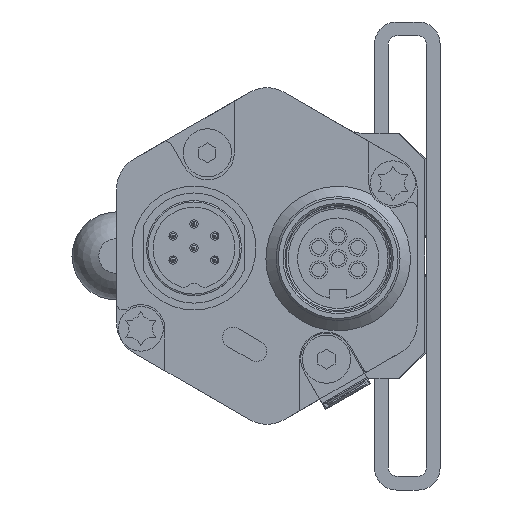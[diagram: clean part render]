
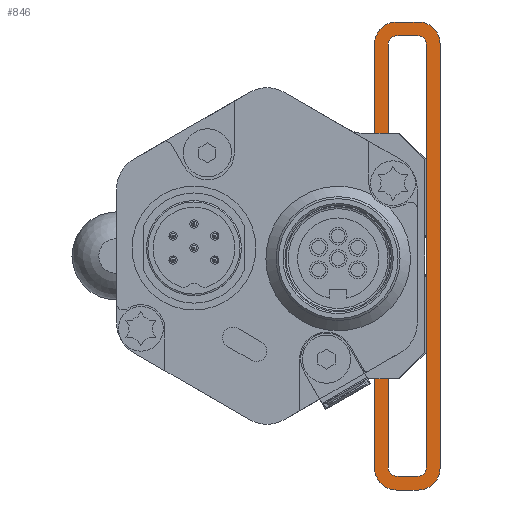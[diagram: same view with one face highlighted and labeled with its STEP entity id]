
A CAD part, left-side view. The second image highlights one B-rep face of the part: STEP entity #846.
In plain terms, the highlighted planar face has unit normal (-1, 0, 0).
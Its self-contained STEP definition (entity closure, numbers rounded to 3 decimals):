
#846 = ADVANCED_FACE( '', ( #2002 ), #2003, .F. );
#2002 = FACE_OUTER_BOUND( '', #3244, .T. );
#2003 = PLANE( '', #3245 );
#3244 = EDGE_LOOP( '', ( #7154, #7155, #7156, #7157, #7158, #7159, #7160, #7161, #7162, #7163, #7164, #7165, #7166, #7167, #7168, #7169, #7170, #7171, #7172, #7173 ) );
#3245 = AXIS2_PLACEMENT_3D( '', #7174, #7175, #7176 );
#7154 = ORIENTED_EDGE( '', *, *, #8850, .F. );
#7155 = ORIENTED_EDGE( '', *, *, #8901, .F. );
#7156 = ORIENTED_EDGE( '', *, *, #8902, .F. );
#7157 = ORIENTED_EDGE( '', *, *, #8844, .F. );
#7158 = ORIENTED_EDGE( '', *, *, #8840, .F. );
#7159 = ORIENTED_EDGE( '', *, *, #8847, .T. );
#7160 = ORIENTED_EDGE( '', *, *, #8899, .F. );
#7161 = ORIENTED_EDGE( '', *, *, #8896, .T. );
#7162 = ORIENTED_EDGE( '', *, *, #8893, .F. );
#7163 = ORIENTED_EDGE( '', *, *, #8888, .T. );
#7164 = ORIENTED_EDGE( '', *, *, #8885, .F. );
#7165 = ORIENTED_EDGE( '', *, *, #8882, .T. );
#7166 = ORIENTED_EDGE( '', *, *, #8879, .F. );
#7167 = ORIENTED_EDGE( '', *, *, #8875, .F. );
#7168 = ORIENTED_EDGE( '', *, *, #8872, .F. );
#7169 = ORIENTED_EDGE( '', *, *, #8868, .F. );
#7170 = ORIENTED_EDGE( '', *, *, #8865, .F. );
#7171 = ORIENTED_EDGE( '', *, *, #8862, .F. );
#7172 = ORIENTED_EDGE( '', *, *, #8859, .F. );
#7173 = ORIENTED_EDGE( '', *, *, #8854, .F. );
#7174 = CARTESIAN_POINT( '', ( -7.25, 3.175, 30.825 ) );
#7175 = DIRECTION( '', ( 1., 0., 0. ) );
#7176 = DIRECTION( '', ( 0., 0., -1. ) );
#8840 = EDGE_CURVE( '', #10949, #10950, #10951, .T. );
#8844 = EDGE_CURVE( '', #10950, #10957, #10958, .T. );
#8847 = EDGE_CURVE( '', #10949, #10962, #10963, .T. );
#8850 = EDGE_CURVE( '', #10967, #10968, #10969, .T. );
#8854 = EDGE_CURVE( '', #10968, #10975, #10976, .T. );
#8859 = EDGE_CURVE( '', #10975, #10984, #10985, .T. );
#8862 = EDGE_CURVE( '', #10984, #10989, #10990, .T. );
#8865 = EDGE_CURVE( '', #10989, #10994, #10995, .T. );
#8868 = EDGE_CURVE( '', #10994, #10999, #11000, .T. );
#8872 = EDGE_CURVE( '', #10999, #11006, #11007, .T. );
#8875 = EDGE_CURVE( '', #11006, #11011, #11012, .T. );
#8879 = EDGE_CURVE( '', #11011, #11018, #11019, .T. );
#8882 = EDGE_CURVE( '', #11023, #11018, #11024, .T. );
#8885 = EDGE_CURVE( '', #11023, #11028, #11029, .T. );
#8888 = EDGE_CURVE( '', #11033, #11028, #11034, .T. );
#8893 = EDGE_CURVE( '', #11033, #11042, #11043, .T. );
#8896 = EDGE_CURVE( '', #11047, #11042, #11048, .T. );
#8899 = EDGE_CURVE( '', #11047, #10962, #11052, .T. );
#8901 = EDGE_CURVE( '', #11054, #10967, #11055, .T. );
#8902 = EDGE_CURVE( '', #10957, #11054, #11056, .T. );
#10949 = VERTEX_POINT( '', #14223 );
#10950 = VERTEX_POINT( '', #14224 );
#10951 = LINE( '', #14225, #14226 );
#10957 = VERTEX_POINT( '', #14235 );
#10958 = LINE( '', #14236, #14237 );
#10962 = VERTEX_POINT( '', #14243 );
#10963 = CIRCLE( '', #14244, 1.25 );
#10967 = VERTEX_POINT( '', #14249 );
#10968 = VERTEX_POINT( '', #14250 );
#10969 = LINE( '', #14251, #14252 );
#10975 = VERTEX_POINT( '', #14261 );
#10976 = CIRCLE( '', #14262, 3.175 );
#10984 = VERTEX_POINT( '', #14271 );
#10985 = LINE( '', #14272, #14273 );
#10989 = VERTEX_POINT( '', #14279 );
#10990 = CIRCLE( '', #14280, 3.175 );
#10994 = VERTEX_POINT( '', #14285 );
#10995 = LINE( '', #14286, #14287 );
#10999 = VERTEX_POINT( '', #14293 );
#11000 = CIRCLE( '', #14294, 3.175 );
#11006 = VERTEX_POINT( '', #14301 );
#11007 = LINE( '', #14302, #14303 );
#11011 = VERTEX_POINT( '', #14309 );
#11012 = LINE( '', #14310, #14311 );
#11018 = VERTEX_POINT( '', #14319 );
#11019 = LINE( '', #14320, #14321 );
#11023 = VERTEX_POINT( '', #14327 );
#11024 = CIRCLE( '', #14328, 1.25 );
#11028 = VERTEX_POINT( '', #14333 );
#11029 = LINE( '', #14334, #14335 );
#11033 = VERTEX_POINT( '', #14341 );
#11034 = CIRCLE( '', #14342, 1.25 );
#11042 = VERTEX_POINT( '', #14351 );
#11043 = LINE( '', #14352, #14353 );
#11047 = VERTEX_POINT( '', #14359 );
#11048 = CIRCLE( '', #14360, 1.25 );
#11052 = LINE( '', #14365, #14366 );
#11054 = VERTEX_POINT( '', #14369 );
#11055 = CIRCLE( '', #14370, 3.175 );
#11056 = LINE( '', #14371, #14372 );
#14223 = CARTESIAN_POINT( '', ( -7.25, 7.5, 30.75 ) );
#14224 = CARTESIAN_POINT( '', ( -7.25, 7.5, 13.75 ) );
#14225 = CARTESIAN_POINT( '', ( -7.25, 7.5, 30.75 ) );
#14226 = VECTOR( '', #16476, 1000. );
#14235 = CARTESIAN_POINT( '', ( -7.25, 9.5, 13.75 ) );
#14236 = CARTESIAN_POINT( '', ( -7.25, 7.5, 13.75 ) );
#14237 = VECTOR( '', #16480, 1000. );
#14243 = CARTESIAN_POINT( '', ( -7.25, 6.25, 32. ) );
#14244 = AXIS2_PLACEMENT_3D( '', #16483, #16484, #16485 );
#14249 = CARTESIAN_POINT( '', ( -7.25, 6.325, 34. ) );
#14250 = CARTESIAN_POINT( '', ( -7.25, 3.175, 34. ) );
#14251 = CARTESIAN_POINT( '', ( -7.25, 6.325, 34. ) );
#14252 = VECTOR( '', #16490, 1000. );
#14261 = CARTESIAN_POINT( '', ( -7.25, 0., 30.825 ) );
#14262 = AXIS2_PLACEMENT_3D( '', #16494, #16495, #16496 );
#14271 = CARTESIAN_POINT( '', ( -7.25, 0., -30.825 ) );
#14272 = CARTESIAN_POINT( '', ( -7.25, 0., 30.825 ) );
#14273 = VECTOR( '', #16507, 1000. );
#14279 = CARTESIAN_POINT( '', ( -7.25, 3.175, -34. ) );
#14280 = AXIS2_PLACEMENT_3D( '', #16510, #16511, #16512 );
#14285 = CARTESIAN_POINT( '', ( -7.25, 6.325, -34. ) );
#14286 = CARTESIAN_POINT( '', ( -7.25, 3.175, -34. ) );
#14287 = VECTOR( '', #16517, 1000. );
#14293 = CARTESIAN_POINT( '', ( -7.25, 9.5, -30.825 ) );
#14294 = AXIS2_PLACEMENT_3D( '', #16520, #16521, #16522 );
#14301 = CARTESIAN_POINT( '', ( -7.25, 9.5, -13.75 ) );
#14302 = CARTESIAN_POINT( '', ( -7.25, 9.5, -30.825 ) );
#14303 = VECTOR( '', #16530, 1000. );
#14309 = CARTESIAN_POINT( '', ( -7.25, 7.5, -13.75 ) );
#14310 = CARTESIAN_POINT( '', ( -7.25, 9.5, -13.75 ) );
#14311 = VECTOR( '', #16533, 1000. );
#14319 = CARTESIAN_POINT( '', ( -7.25, 7.5, -30.75 ) );
#14320 = CARTESIAN_POINT( '', ( -7.25, 7.5, -13.75 ) );
#14321 = VECTOR( '', #16539, 1000. );
#14327 = CARTESIAN_POINT( '', ( -7.25, 6.25, -32. ) );
#14328 = AXIS2_PLACEMENT_3D( '', #16542, #16543, #16544 );
#14333 = CARTESIAN_POINT( '', ( -7.25, 3.25, -32. ) );
#14334 = CARTESIAN_POINT( '', ( -7.25, 6.25, -32. ) );
#14335 = VECTOR( '', #16549, 1000. );
#14341 = CARTESIAN_POINT( '', ( -7.25, 2., -30.75 ) );
#14342 = AXIS2_PLACEMENT_3D( '', #16552, #16553, #16554 );
#14351 = CARTESIAN_POINT( '', ( -7.25, 2., 30.75 ) );
#14352 = CARTESIAN_POINT( '', ( -7.25, 2., -30.75 ) );
#14353 = VECTOR( '', #16565, 1000. );
#14359 = CARTESIAN_POINT( '', ( -7.25, 3.25, 32. ) );
#14360 = AXIS2_PLACEMENT_3D( '', #16568, #16569, #16570 );
#14365 = CARTESIAN_POINT( '', ( -7.25, 3.25, 32. ) );
#14366 = VECTOR( '', #16575, 1000. );
#14369 = CARTESIAN_POINT( '', ( -7.25, 9.5, 30.825 ) );
#14370 = AXIS2_PLACEMENT_3D( '', #16577, #16578, #16579 );
#14371 = CARTESIAN_POINT( '', ( -7.25, 9.5, 13.75 ) );
#14372 = VECTOR( '', #16580, 1000. );
#16476 = DIRECTION( '', ( 0., 0., -1. ) );
#16480 = DIRECTION( '', ( 0., 1., 0. ) );
#16483 = CARTESIAN_POINT( '', ( -7.25, 6.25, 30.75 ) );
#16484 = DIRECTION( '', ( 1., 0., 0. ) );
#16485 = DIRECTION( '', ( 0., 0., -1. ) );
#16490 = DIRECTION( '', ( 0., -1., 0. ) );
#16494 = CARTESIAN_POINT( '', ( -7.25, 3.175, 30.825 ) );
#16495 = DIRECTION( '', ( 1., 0., 0. ) );
#16496 = DIRECTION( '', ( 0., 0., -1. ) );
#16507 = DIRECTION( '', ( 0., 0., -1. ) );
#16510 = CARTESIAN_POINT( '', ( -7.25, 3.175, -30.825 ) );
#16511 = DIRECTION( '', ( 1., 0., 0. ) );
#16512 = DIRECTION( '', ( 0., 0., -1. ) );
#16517 = DIRECTION( '', ( 0., 1., 0. ) );
#16520 = CARTESIAN_POINT( '', ( -7.25, 6.325, -30.825 ) );
#16521 = DIRECTION( '', ( 1., 0., 0. ) );
#16522 = DIRECTION( '', ( 0., 0., -1. ) );
#16530 = DIRECTION( '', ( 0., 0., 1. ) );
#16533 = DIRECTION( '', ( 0., -1., 0. ) );
#16539 = DIRECTION( '', ( 0., 0., -1. ) );
#16542 = CARTESIAN_POINT( '', ( -7.25, 6.25, -30.75 ) );
#16543 = DIRECTION( '', ( 1., 0., 0. ) );
#16544 = DIRECTION( '', ( 0., 0., -1. ) );
#16549 = DIRECTION( '', ( 0., -1., 0. ) );
#16552 = CARTESIAN_POINT( '', ( -7.25, 3.25, -30.75 ) );
#16553 = DIRECTION( '', ( 1., 0., 0. ) );
#16554 = DIRECTION( '', ( 0., 0., -1. ) );
#16565 = DIRECTION( '', ( 0., 0., 1. ) );
#16568 = CARTESIAN_POINT( '', ( -7.25, 3.25, 30.75 ) );
#16569 = DIRECTION( '', ( 1., 0., 0. ) );
#16570 = DIRECTION( '', ( 0., 0., -1. ) );
#16575 = DIRECTION( '', ( 0., 1., 0. ) );
#16577 = CARTESIAN_POINT( '', ( -7.25, 6.325, 30.825 ) );
#16578 = DIRECTION( '', ( 1., 0., 0. ) );
#16579 = DIRECTION( '', ( 0., 0., -1. ) );
#16580 = DIRECTION( '', ( 0., 0., 1. ) );
